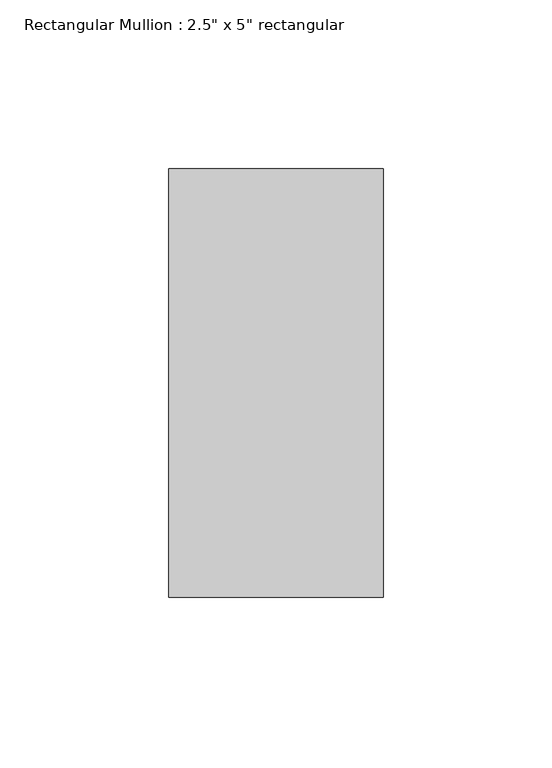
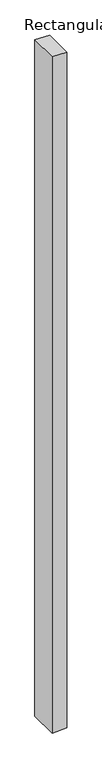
"""IFC4 building model written with IfcOpenShell, lengths in millimetres: member geometry."""

from ifc_helpers import new_model, si_unit, frame, origin, place, context, project, spatial, polyline, outline, extrude, source, transform, mapped, element, save


def member_6abdc42e(model_context):
    return source(origin(), model_context, "Body", "SweptSolid", [
        extrude(outline(polyline([(0.0, 0.0), (1.0054302, -63.5), (-3057.5956157, -63.5), (-3056.2153083, 0.0), (0.0, 0.0)])), frame((0.0, -63.5, 0.0), z_axis=(0.0, 1.0, 0.0), x_axis=(0.0, 0.0, 1.0)), (0.0, 0.0, 1.0), 127.0),
    ])


if __name__ == "__main__":
    model = new_model("IFC4")
    model_context = context("Model", 3, world=origin())
    ifc_project = project(units=[si_unit("LENGTHUNIT", "METRE", prefix="MILLI")], contexts=[model_context])
    site = spatial("IfcSite", under=ifc_project)
    building = spatial("IfcBuilding", under=site)
    placement = place(None, origin())
    member_shape = member_6abdc42e(model_context)
    element("IfcMember", 1, ObjectType="Rectangular Mullion : 2.5\" x 5\" rectangular", at=placement, inside=building, context=model_context, shape_type="MappedRepresentation", body=[
        mapped(member_shape, transform((0.0, 0.0, 0.0), x_axis=(1.0, 0.0, 0.0), y_axis=(0.0, 1.0, 0.0), z_axis=(0.0, 0.0, 1.0))),
    ])
    save(model, "model.ifc")
